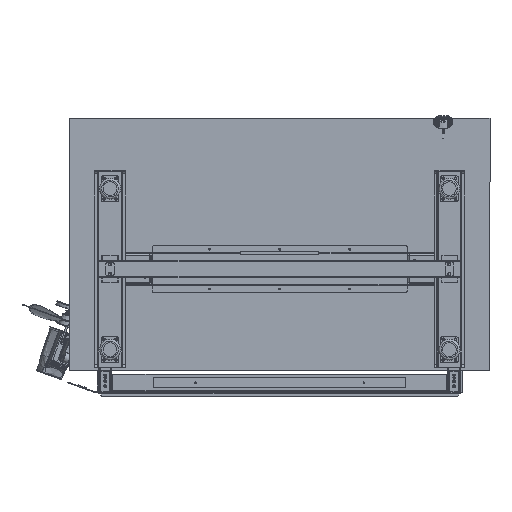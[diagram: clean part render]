
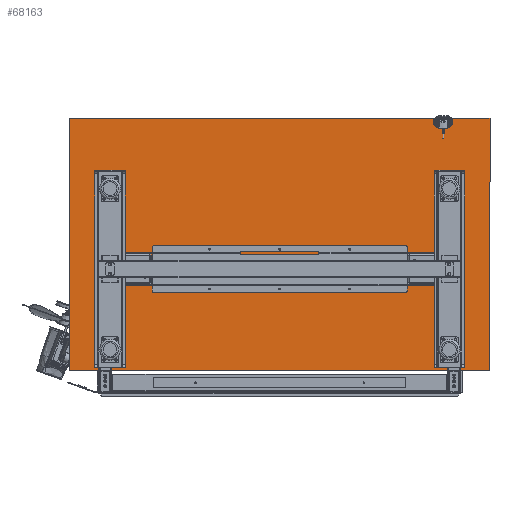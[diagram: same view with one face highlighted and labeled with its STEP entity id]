
A CAD part, front view. The second image highlights one B-rep face of the part: STEP entity #68163.
In plain terms, the highlighted planar face has unit normal (0, -1, 0).
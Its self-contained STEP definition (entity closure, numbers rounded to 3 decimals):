
#4968 = FACE_OUTER_BOUND ( 'NONE', #31255, .T. ) ;
#9654 = DIRECTION ( 'NONE',  ( 0., 1., 0. ) ) ;
#10635 = CARTESIAN_POINT ( 'NONE',  ( -99.379, 617.204, 603.562 ) ) ;
#16775 = VECTOR ( 'NONE', #62388, 1000. ) ;
#20535 = CARTESIAN_POINT ( 'NONE',  ( -99.379, 617.204, 603.562 ) ) ;
#22378 = DIRECTION ( 'NONE',  ( 0., 0., -1. ) ) ;
#26924 = CARTESIAN_POINT ( 'NONE',  ( 662.621, 617.204, 1060.762 ) ) ;
#31255 = EDGE_LOOP ( 'NONE', ( #272997, #179832, #240254, #152608 ) ) ;
#50307 = VERTEX_POINT ( 'NONE', #301223 ) ;
#62388 = DIRECTION ( 'NONE',  ( -1., 0., 0. ) ) ;
#68163 = ADVANCED_FACE ( 'NONE', ( #4968 ), #272770, .F. ) ;
#80927 = LINE ( 'NONE', #20535, #200525 ) ;
#87272 = LINE ( 'NONE', #210233, #264803 ) ;
#92956 = DIRECTION ( 'NONE',  ( 0., 0., 1. ) ) ;
#96743 = EDGE_CURVE ( 'NONE', #98752, #120479, #87272, .T. ) ;
#98752 = VERTEX_POINT ( 'NONE', #172675 ) ;
#105699 = DIRECTION ( 'NONE',  ( 0., 0., 1. ) ) ;
#120479 = VERTEX_POINT ( 'NONE', #141414 ) ;
#129018 = EDGE_CURVE ( 'NONE', #149671, #50307, #309973, .T. ) ;
#141414 = CARTESIAN_POINT ( 'NONE',  ( 1424.621, 617.204, 1517.962 ) ) ;
#149671 = VERTEX_POINT ( 'NONE', #151351 ) ;
#151351 = CARTESIAN_POINT ( 'NONE',  ( 1424.621, 617.204, 603.562 ) ) ;
#152608 = ORIENTED_EDGE ( 'NONE', *, *, #129018, .F. ) ;
#159673 = DIRECTION ( 'NONE',  ( 1., 0., 0. ) ) ;
#170113 = CARTESIAN_POINT ( 'NONE',  ( 1424.621, 617.204, 603.562 ) ) ;
#172675 = CARTESIAN_POINT ( 'NONE',  ( -99.379, 617.204, 1517.962 ) ) ;
#179832 = ORIENTED_EDGE ( 'NONE', *, *, #96743, .F. ) ;
#200525 = VECTOR ( 'NONE', #92956, 1000. ) ;
#210233 = CARTESIAN_POINT ( 'NONE',  ( -99.379, 617.204, 1517.962 ) ) ;
#225253 = AXIS2_PLACEMENT_3D ( 'NONE', #26924, #9654, #105699 ) ;
#236510 = LINE ( 'NONE', #170113, #279014 ) ;
#240254 = ORIENTED_EDGE ( 'NONE', *, *, #275156, .F. ) ;
#264803 = VECTOR ( 'NONE', #159673, 1000. ) ;
#269961 = EDGE_CURVE ( 'NONE', #120479, #149671, #236510, .T. ) ;
#272770 = PLANE ( 'NONE',  #225253 ) ;
#272997 = ORIENTED_EDGE ( 'NONE', *, *, #269961, .F. ) ;
#275156 = EDGE_CURVE ( 'NONE', #50307, #98752, #80927, .T. ) ;
#279014 = VECTOR ( 'NONE', #22378, 1000. ) ;
#301223 = CARTESIAN_POINT ( 'NONE',  ( -99.379, 617.204, 603.562 ) ) ;
#309973 = LINE ( 'NONE', #10635, #16775 ) ;
